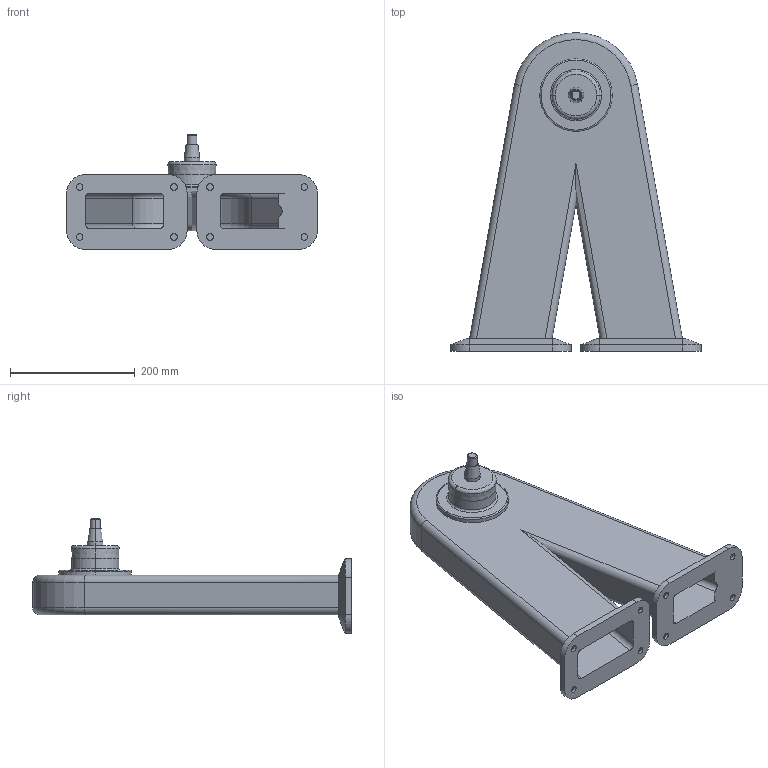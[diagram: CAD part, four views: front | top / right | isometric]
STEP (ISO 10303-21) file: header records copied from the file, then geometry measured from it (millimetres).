
FILE_DESCRIPTION (( 'STEP AP214' ), '1' );
FILE_NAME ('WP850_H410.STEP', '2014-09-08T12:54:33', ( '' ), ( '' ), 'SwSTEP 2.0', 'SolidWorks 2014', '' );
FILE_SCHEMA (( 'AUTOMOTIVE_DESIGN' ));
Length unit declared in the file: millimetre
Products named in the file (1): WP850_H410
Bounding box: 401.61 x 510 x 183.98 mm (x, y, z)
Volume: 1644484.3 mm3; surface area: 707435.5 mm2
Topology: 1 solids, 1 shells, 152 faces, 347 edges, 218 vertices
Faces by surface type: cylinder 76, plane 52, cone 14, torus 10
Entity records: 4347 total; most frequent: DIRECTION 791, CARTESIAN_POINT 778, ORIENTED_EDGE 694, EDGE_CURVE 347, AXIS2_PLACEMENT_3D 311, VERTEX_POINT 218, EDGE_LOOP 185, VECTOR 169
